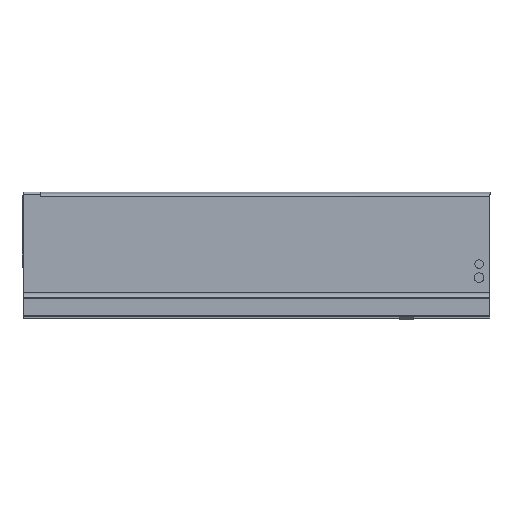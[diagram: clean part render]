
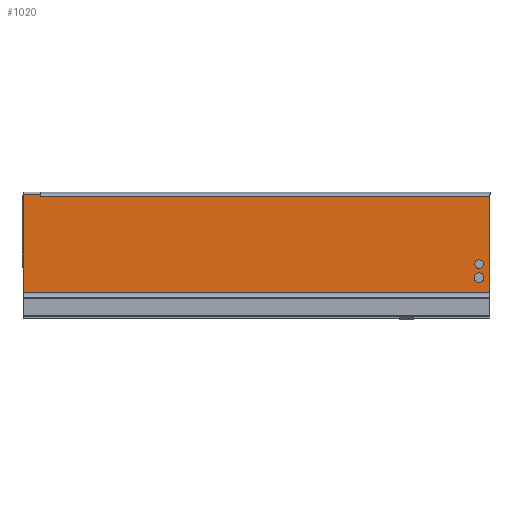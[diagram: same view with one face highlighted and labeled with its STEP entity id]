
A CAD part, left-side view. The second image highlights one B-rep face of the part: STEP entity #1020.
In plain terms, the highlighted planar face has unit normal (-1, 0, 0).
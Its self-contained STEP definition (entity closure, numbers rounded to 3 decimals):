
#2 = CARTESIAN_POINT ( 'NONE',  ( -21.5, 10.4, 28.9 ) ) ;
#3 = CARTESIAN_POINT ( 'NONE',  ( -21.5, 10.4, 15.4 ) ) ;
#4 = CARTESIAN_POINT ( 'NONE',  ( -21.5, 430.7, 98.06 ) ) ;
#5 = CARTESIAN_POINT ( 'NONE',  ( -21.5, 10.4, 37.1 ) ) ;
#6 = VERTEX_POINT ( 'NONE', #5 ) ;
#7 = VERTEX_POINT ( 'NONE', #2 ) ;
#8 = VERTEX_POINT ( 'NONE', #4 ) ;
#9 = VERTEX_POINT ( 'NONE', #140 ) ;
#12 = VERTEX_POINT ( 'NONE', #3 ) ;
#18 = VERTEX_POINT ( 'NONE', #147 ) ;
#77 = VERTEX_POINT ( 'NONE', #206 ) ;
#96 = VERTEX_POINT ( 'NONE', #225 ) ;
#97 = VERTEX_POINT ( 'NONE', #226 ) ;
#98 = VERTEX_POINT ( 'NONE', #227 ) ;
#140 = CARTESIAN_POINT ( 'NONE',  ( -21.5, 10.4, 24.6 ) ) ;
#147 = CARTESIAN_POINT ( 'NONE',  ( -21.5, 0., 98.06 ) ) ;
#206 = CARTESIAN_POINT ( 'NONE',  ( -21.5, 0., 5.395 ) ) ;
#225 = CARTESIAN_POINT ( 'NONE',  ( -21.5, 447., 5.395 ) ) ;
#226 = CARTESIAN_POINT ( 'NONE',  ( -21.5, 430.7, 100. ) ) ;
#227 = CARTESIAN_POINT ( 'NONE',  ( -21.5, 447., 100. ) ) ;
#354 = PLANE ( 'NONE',  #1288 ) ;
#358 = CARTESIAN_POINT ( 'NONE',  ( -21.5, 144.577, 98.06 ) ) ;
#359 = DIRECTION ( 'NONE',  ( -1., 0., 0. ) ) ;
#360 = DIRECTION ( 'NONE',  ( 0., 0., -1. ) ) ;
#651 = CARTESIAN_POINT ( 'NONE',  ( -21.5, 144.577, 98.06 ) ) ;
#658 = DIRECTION ( 'NONE',  ( 0., -1., 0. ) ) ;
#695 = CARTESIAN_POINT ( 'NONE',  ( -21.5, 10.4, 20. ) ) ;
#700 = DIRECTION ( 'NONE',  ( -1., 0., 0. ) ) ;
#701 = DIRECTION ( 'NONE',  ( 0., 0., -1. ) ) ;
#720 = CARTESIAN_POINT ( 'NONE',  ( -21.5, 144.577, 5.395 ) ) ;
#721 = DIRECTION ( 'NONE',  ( 0., -1., 0. ) ) ;
#722 = CARTESIAN_POINT ( 'NONE',  ( -21.5, 10.4, 33. ) ) ;
#723 = DIRECTION ( 'NONE',  ( -1., 0., 0. ) ) ;
#724 = DIRECTION ( 'NONE',  ( 0., 0., -1. ) ) ;
#740 = CARTESIAN_POINT ( 'NONE',  ( -21.5, 447., 100. ) ) ;
#748 = DIRECTION ( 'NONE',  ( 0., -1., 0. ) ) ;
#757 = CARTESIAN_POINT ( 'NONE',  ( -21.5, 10.4, 20. ) ) ;
#760 = CARTESIAN_POINT ( 'NONE',  ( -21.5, 10.4, 33. ) ) ;
#763 = DIRECTION ( 'NONE',  ( -1., 0., 0. ) ) ;
#764 = DIRECTION ( 'NONE',  ( 0., 0., -1. ) ) ;
#771 = CARTESIAN_POINT ( 'NONE',  ( -21.5, 0., 98.06 ) ) ;
#772 = DIRECTION ( 'NONE',  ( 0., 0., -1. ) ) ;
#784 = DIRECTION ( 'NONE',  ( -1., 0., 0. ) ) ;
#785 = DIRECTION ( 'NONE',  ( 0., 0., -1. ) ) ;
#793 = CARTESIAN_POINT ( 'NONE',  ( -21.5, 430.7, 5.395 ) ) ;
#794 = DIRECTION ( 'NONE',  ( 0., 0., -1. ) ) ;
#869 = DIRECTION ( 'NONE',  ( 0., 0., -1. ) ) ;
#906 = CARTESIAN_POINT ( 'NONE',  ( -21.5, 447., 5.395 ) ) ;
#1020 = ADVANCED_FACE ( 'NONE', ( #1712, #2282, #2147 ), #354, .T. ) ;
#1159 = EDGE_CURVE ( 'NONE', #8, #18, #1469, .T. ) ;
#1192 = EDGE_CURVE ( 'NONE', #12, #9, #2066, .T. ) ;
#1208 = EDGE_CURVE ( 'NONE', #96, #77, #2004, .T. ) ;
#1209 = EDGE_CURVE ( 'NONE', #7, #6, #2346, .T. ) ;
#1228 = EDGE_CURVE ( 'NONE', #98, #97, #1553, .T. ) ;
#1237 = EDGE_CURVE ( 'NONE', #6, #7, #1521, .T. ) ;
#1242 = EDGE_CURVE ( 'NONE', #18, #77, #1627, .T. ) ;
#1245 = AXIS2_PLACEMENT_3D ( 'NONE', #695, #700, #701 ) ;
#1255 = EDGE_CURVE ( 'NONE', #9, #12, #1902, .T. ) ;
#1261 = AXIS2_PLACEMENT_3D ( 'NONE', #722, #723, #724 ) ;
#1262 = EDGE_CURVE ( 'NONE', #97, #8, #1858, .T. ) ;
#1274 = AXIS2_PLACEMENT_3D ( 'NONE', #757, #784, #785 ) ;
#1288 = AXIS2_PLACEMENT_3D ( 'NONE', #358, #359, #360 ) ;
#1333 = EDGE_CURVE ( 'NONE', #98, #96, #1741, .T. ) ;
#1382 = AXIS2_PLACEMENT_3D ( 'NONE', #760, #763, #764 ) ;
#1469 = LINE ( 'NONE', #651, #1999 ) ;
#1512 = ORIENTED_EDGE ( 'NONE', *, *, #1192, .F. ) ;
#1514 = ORIENTED_EDGE ( 'NONE', *, *, #1208, .T. ) ;
#1521 = CIRCLE ( 'NONE', #1382, 4.1 ) ;
#1547 = EDGE_LOOP ( 'NONE', ( #1514, #1919, #2008, #2296, #1620, #2015 ) ) ;
#1553 = LINE ( 'NONE', #740, #1727 ) ;
#1620 = ORIENTED_EDGE ( 'NONE', *, *, #1228, .F. ) ;
#1626 = VECTOR ( 'NONE', #772, 1000. ) ;
#1627 = LINE ( 'NONE', #771, #1626 ) ;
#1712 = FACE_OUTER_BOUND ( 'NONE', #1547, .T. ) ;
#1727 = VECTOR ( 'NONE', #748, 1000. ) ;
#1741 = LINE ( 'NONE', #906, #1745 ) ;
#1745 = VECTOR ( 'NONE', #869, 1000. ) ;
#1858 = LINE ( 'NONE', #793, #1868 ) ;
#1868 = VECTOR ( 'NONE', #794, 1000. ) ;
#1897 = ORIENTED_EDGE ( 'NONE', *, *, #1255, .F. ) ;
#1902 = CIRCLE ( 'NONE', #1274, 4.6 ) ;
#1904 = ORIENTED_EDGE ( 'NONE', *, *, #1209, .F. ) ;
#1919 = ORIENTED_EDGE ( 'NONE', *, *, #1242, .F. ) ;
#1999 = VECTOR ( 'NONE', #658, 1000. ) ;
#2003 = VECTOR ( 'NONE', #721, 1000. ) ;
#2004 = LINE ( 'NONE', #720, #2003 ) ;
#2008 = ORIENTED_EDGE ( 'NONE', *, *, #1159, .F. ) ;
#2015 = ORIENTED_EDGE ( 'NONE', *, *, #1333, .T. ) ;
#2031 = EDGE_LOOP ( 'NONE', ( #1904, #2298 ) ) ;
#2066 = CIRCLE ( 'NONE', #1245, 4.6 ) ;
#2147 = FACE_BOUND ( 'NONE', #2227, .T. ) ;
#2227 = EDGE_LOOP ( 'NONE', ( #1512, #1897 ) ) ;
#2282 = FACE_BOUND ( 'NONE', #2031, .T. ) ;
#2296 = ORIENTED_EDGE ( 'NONE', *, *, #1262, .F. ) ;
#2298 = ORIENTED_EDGE ( 'NONE', *, *, #1237, .F. ) ;
#2346 = CIRCLE ( 'NONE', #1261, 4.1 ) ;
